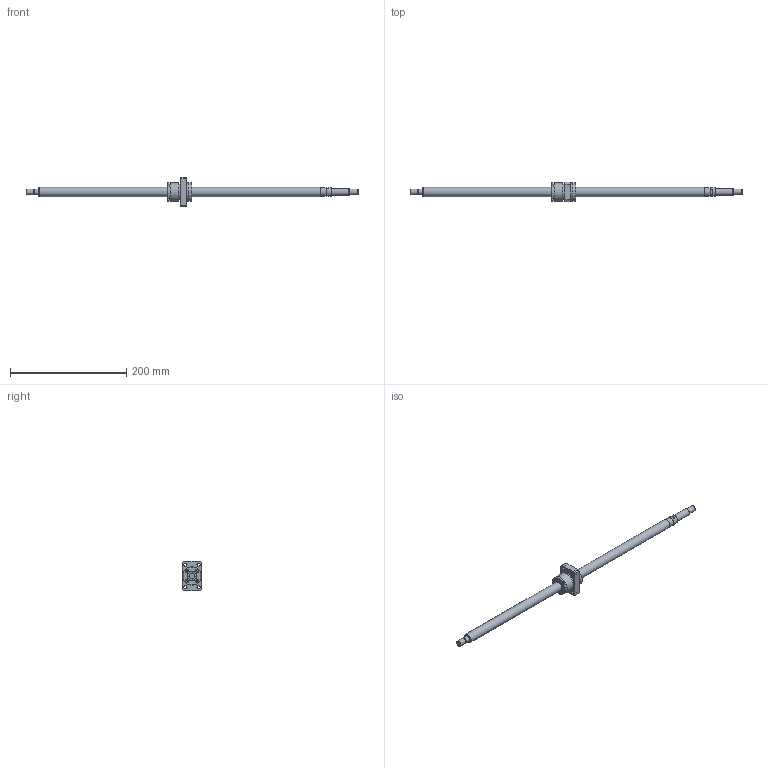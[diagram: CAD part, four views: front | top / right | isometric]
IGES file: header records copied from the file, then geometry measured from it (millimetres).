
Start section: Data from Parasolid IGES Translator 26.0.171, Copyright(c) 2006 Siemens PLM Software. All Rights Reserved.
Global section: file name: BNK1616-3.6G0+571LC5Y(2630).igs; native system: By Siemens PLM Incorporated; preprocessor: XPlus GENERIC/IGES 26.0.171; author: Noname; organization: Noname; date: 20240709.092935; units: millimetre
Bounding box: 571 x 34 x 50 mm (x, y, z)
Surface area: 39317.2 mm2 (no closed solid volume)
Topology: 0 solids, 0 shells, 139 faces, 653 edges, 596 vertices
Faces by surface type: extrusion 75, revolution 64
